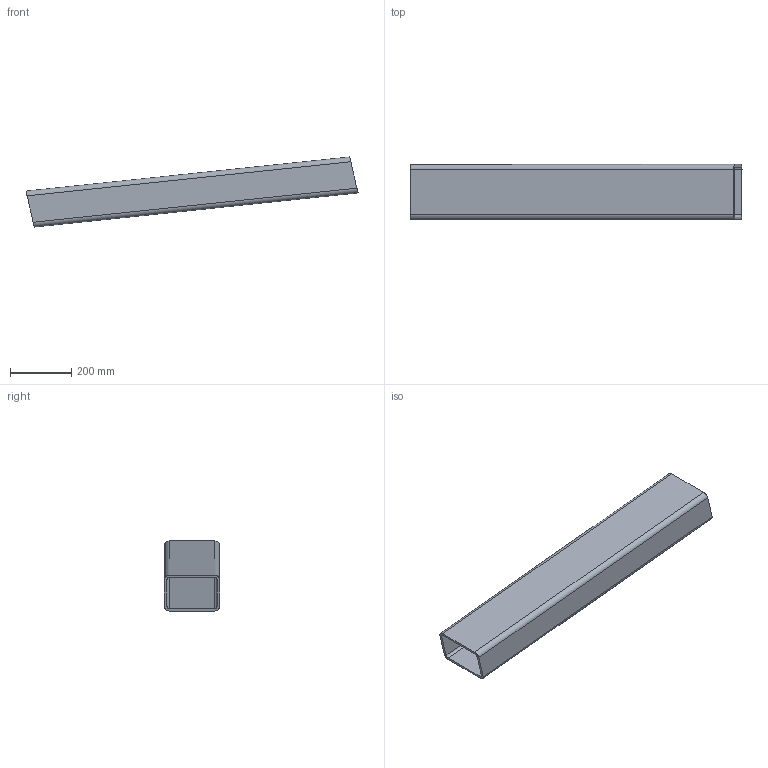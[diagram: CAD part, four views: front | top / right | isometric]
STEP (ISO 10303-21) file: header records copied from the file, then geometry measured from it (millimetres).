
FILE_DESCRIPTION(('FreeCAD Model'),'2;1');
FILE_NAME('C:/Users/Sergio Pluchinsky/Downloads/03.08.0003_Laengtraeger_180x120x8.step', '2017-11-27T19:19:34',('Author'),(''), 'Open CASCADE STEP processor 7.1','FreeCAD','Unknown');
FILE_SCHEMA(('AUTOMOTIVE_DESIGN { 1 0 10303 214 1 1 1 1 }'));
Length unit declared in the file: millimetre
Products named in the file (1): 03.08.0003_Laengtraeger_180x120x8
Bounding box: 1086.36 x 180 x 229.12 mm (x, y, z)
Volume: 4663814.6 mm3; surface area: 1174777.8 mm2
Topology: 1 solids, 1 shells, 18 faces, 48 edges, 32 vertices
Faces by surface type: plane 10, cylinder 8
Entity records: 2481 total; most frequent: CARTESIAN_POINT 1571, DIRECTION 134, ORIENTED_EDGE 96, LINE 96, VECTOR 96, PCURVE 96, DEFINITIONAL_REPRESENTATION 96, EDGE_CURVE 48
